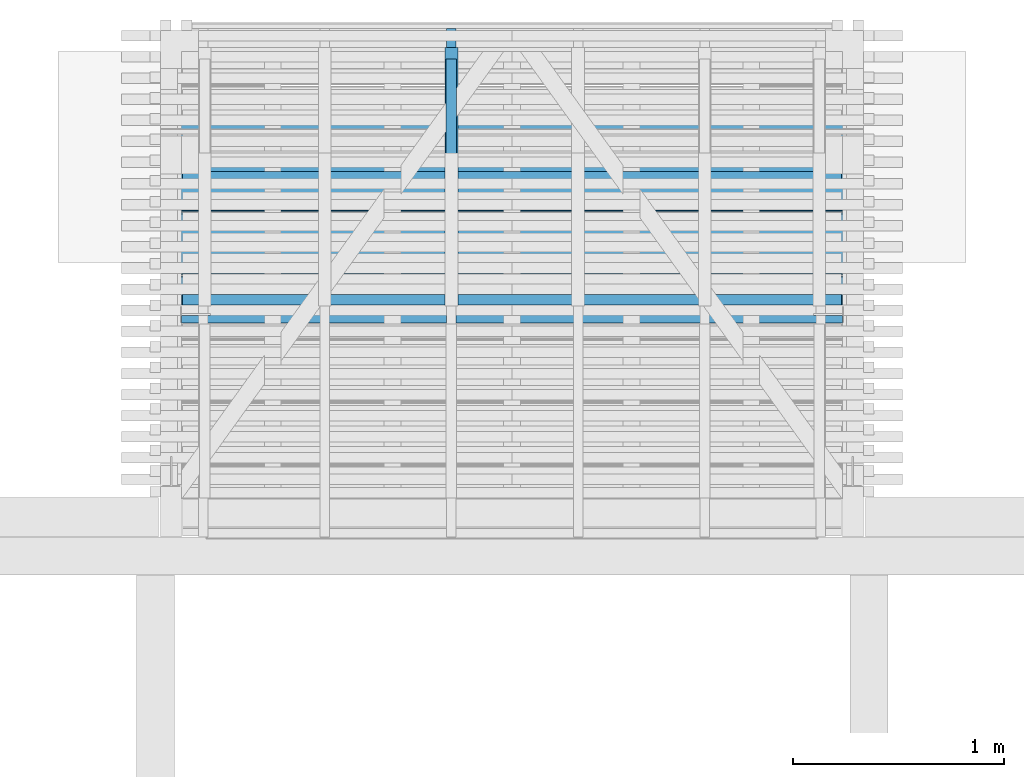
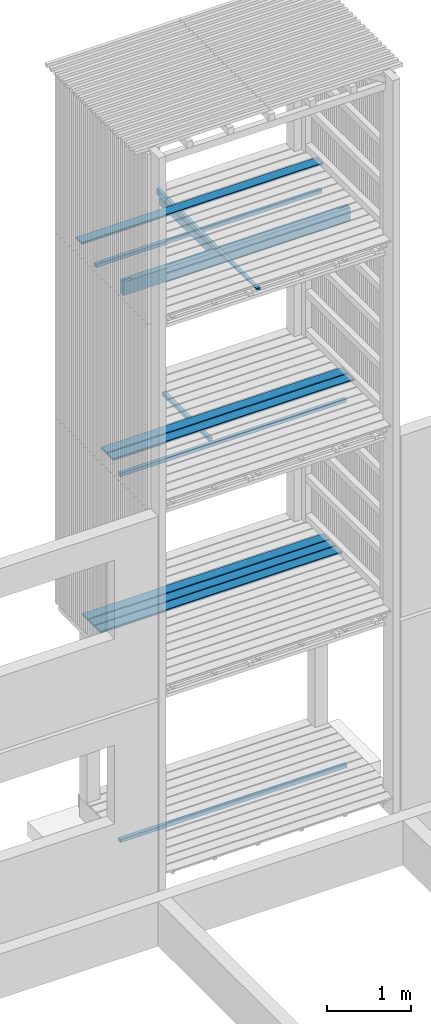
# One storey, part 46 of 182: 13 beams.
"""IFC2X3 building model written with IfcOpenShell, lengths in metres."""

from ifc_helpers import new_model, si_unit, frame, origin, place, context, project, spatial, faceted_brep, element, save


model = new_model("IFC2X3")

# Units and contexts
model_context = context("Model", 3, precision=1e-06, world=origin())
ifc_project = project(units=[si_unit("LENGTHUNIT", "METRE"), si_unit("PLANEANGLEUNIT", "RADIAN")], contexts=[model_context])

# Site, building, storey
site = spatial("IfcSite", under=ifc_project, CompositionType="ELEMENT")
building = spatial("IfcBuilding", under=site, CompositionType="ELEMENT")
storey = spatial("IfcBuildingStorey", under=building, Name="vs", CompositionType="ELEMENT", Elevation=-0.85)

# Beams
placement = place(None, origin())
beam_1_placement = place(placement, frame((16.654197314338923, 12.084577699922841, 2.733499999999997), z_axis=(0.0, 0.0, 1.0), x_axis=(-1.0, -1e-14, 0.0)))
element("IfcBeam", 1, at=beam_1_placement, inside=storey, Name="Caillebotis", context=model_context, shape_type="Brep", body=[
    faceted_brep([(3.329999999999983, -0.072500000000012, -0.013499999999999), (3.329999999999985, 0.072499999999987, -0.013499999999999), (3.329999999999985, 0.072499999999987, 0.0085), (3.329999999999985, 0.067499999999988, 0.013500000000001), (3.329999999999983, -0.067500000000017, 0.013500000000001), (3.329999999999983, -0.072500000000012, 0.008500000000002), (-1.5e-14, -0.072499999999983, 0.008500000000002), (-1.5e-14, -0.067499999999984, 0.013500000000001), (-1.4e-14, 0.067500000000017, 0.0135), (-1.4e-14, 0.072500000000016, 0.008500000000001), (-1.4e-14, 0.072500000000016, -0.013499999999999), (-1.5e-14, -0.072499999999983, -0.013499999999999), (3.329999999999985, 0.072499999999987, 0.0085), (3.329999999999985, 0.072499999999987, -0.013499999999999), (-1.4e-14, 0.072500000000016, -0.013499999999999), (-1.4e-14, 0.072500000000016, 0.008500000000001), (3.329999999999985, 0.067499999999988, 0.013500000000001), (3.329999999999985, 0.072499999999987, 0.0085), (-1.4e-14, 0.072500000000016, 0.008500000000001), (-1.4e-14, 0.067500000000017, 0.0135), (3.329999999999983, -0.067500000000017, 0.013500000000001), (3.329999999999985, 0.067499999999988, 0.013500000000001), (-1.4e-14, 0.067500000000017, 0.0135), (-1.5e-14, -0.067499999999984, 0.013500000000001), (3.329999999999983, -0.072500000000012, 0.008500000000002), (3.329999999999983, -0.067500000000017, 0.013500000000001), (-1.5e-14, -0.067499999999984, 0.013500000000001), (-1.5e-14, -0.072499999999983, 0.008500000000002), (3.329999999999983, -0.072500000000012, -0.013499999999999), (3.329999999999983, -0.072500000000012, 0.008500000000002), (-1.5e-14, -0.072499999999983, 0.008500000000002), (-1.5e-14, -0.072499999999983, -0.013499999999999), (-1.4e-14, 0.072500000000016, -0.013499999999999), (3.329999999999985, 0.072499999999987, -0.013499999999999), (3.329999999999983, -0.072500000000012, -0.013499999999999), (-1.5e-14, -0.072499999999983, -0.013499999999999)], [[[0, 1, 2, 3, 4, 5]], [[6, 7, 8, 9, 10, 11]], [[12, 13, 14, 15]], [[16, 17, 18, 19]], [[20, 21, 22, 23]], [[24, 25, 26, 27]], [[28, 29, 30, 31]], [[32, 33, 34, 35]]]),
])
beam_2_placement = place(placement, frame((16.654197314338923, 11.784577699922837, 5.433499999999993), z_axis=(0.0, 0.0, 1.0), x_axis=(-1.0, -8e-15, 0.0)))
element("IfcBeam", 2, at=beam_2_placement, inside=storey, Name="Caillebotis", context=model_context, shape_type="Brep", body=[
    faceted_brep([(3.329999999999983, -0.072500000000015, -0.0135), (3.329999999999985, 0.072499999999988, -0.0135), (3.329999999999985, 0.072499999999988, 0.0085), (3.329999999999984, 0.067499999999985, 0.0135), (3.329999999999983, -0.067500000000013, 0.0135), (3.329999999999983, -0.072500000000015, 0.008500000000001), (-1.5e-14, -0.072499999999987, 0.008500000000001), (-1.5e-14, -0.067499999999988, 0.0135), (-1.4e-14, 0.067500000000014, 0.0135), (-1.4e-14, 0.072500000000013, 0.0085), (-1.4e-14, 0.072500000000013, -0.0135), (-1.5e-14, -0.072499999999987, -0.0135), (3.329999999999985, 0.072499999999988, 0.0085), (3.329999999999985, 0.072499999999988, -0.0135), (-1.4e-14, 0.072500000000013, -0.0135), (-1.4e-14, 0.072500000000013, 0.0085), (3.329999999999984, 0.067499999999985, 0.0135), (3.329999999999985, 0.072499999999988, 0.0085), (-1.4e-14, 0.072500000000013, 0.0085), (-1.4e-14, 0.067500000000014, 0.0135), (3.329999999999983, -0.067500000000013, 0.0135), (3.329999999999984, 0.067499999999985, 0.0135), (-1.4e-14, 0.067500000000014, 0.0135), (-1.5e-14, -0.067499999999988, 0.0135), (3.329999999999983, -0.072500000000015, 0.008500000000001), (3.329999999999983, -0.067500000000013, 0.0135), (-1.5e-14, -0.067499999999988, 0.0135), (-1.5e-14, -0.072499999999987, 0.008500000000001), (3.329999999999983, -0.072500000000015, -0.0135), (3.329999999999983, -0.072500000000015, 0.008500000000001), (-1.5e-14, -0.072499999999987, 0.008500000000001), (-1.5e-14, -0.072499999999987, -0.0135), (-1.4e-14, 0.072500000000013, -0.0135), (3.329999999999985, 0.072499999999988, -0.0135), (3.329999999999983, -0.072500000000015, -0.0135), (-1.5e-14, -0.072499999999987, -0.0135)], [[[0, 1, 2, 3, 4, 5]], [[6, 7, 8, 9, 10, 11]], [[12, 13, 14, 15]], [[16, 17, 18, 19]], [[20, 21, 22, 23]], [[24, 25, 26, 27]], [[28, 29, 30, 31]], [[32, 33, 34, 35]]]),
])
beam_3_placement = place(placement, frame((16.654197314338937, 12.23457769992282, 2.733499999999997), z_axis=(0.0, 0.0, 1.0), x_axis=(-1.0, 0.0, 0.0)))
element("IfcBeam", 3, at=beam_3_placement, inside=storey, Name="Caillebotis", context=model_context, shape_type="Brep", body=[
    faceted_brep([(3.329999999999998, -0.072499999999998, -0.0135), (3.329999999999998, 0.072499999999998, -0.0135), (3.329999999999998, 0.072499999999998, 0.0085), (3.329999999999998, 0.067500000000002, 0.0135), (3.329999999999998, -0.067500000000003, 0.0135), (3.329999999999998, -0.072499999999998, 0.008500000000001), (0.0, -0.072500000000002, 0.008500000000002), (0.0, -0.067500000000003, 0.0135), (0.0, 0.067499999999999, 0.0135), (0.0, 0.072499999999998, 0.0085), (0.0, 0.072499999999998, -0.0135), (0.0, -0.072500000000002, -0.0135), (3.329999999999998, 0.072499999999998, 0.0085), (3.329999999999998, 0.072499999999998, -0.0135), (0.0, 0.072499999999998, -0.0135), (0.0, 0.072499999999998, 0.0085), (3.329999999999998, 0.067500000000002, 0.0135), (3.329999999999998, 0.072499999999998, 0.0085), (0.0, 0.072499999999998, 0.0085), (0.0, 0.067499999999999, 0.0135), (3.329999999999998, -0.067500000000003, 0.0135), (3.329999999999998, 0.067500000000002, 0.0135), (0.0, 0.067499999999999, 0.0135), (0.0, -0.067500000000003, 0.0135), (3.329999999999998, -0.072499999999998, 0.008500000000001), (3.329999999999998, -0.067500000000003, 0.0135), (0.0, -0.067500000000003, 0.0135), (0.0, -0.072500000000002, 0.008500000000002), (3.329999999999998, -0.072499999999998, -0.0135), (3.329999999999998, -0.072499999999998, 0.008500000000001), (0.0, -0.072500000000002, 0.008500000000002), (0.0, -0.072500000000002, -0.0135), (0.0, 0.072499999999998, -0.0135), (3.329999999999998, 0.072499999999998, -0.0135), (3.329999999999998, -0.072499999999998, -0.0135), (0.0, -0.072500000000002, -0.0135)], [[[0, 1, 2, 3, 4, 5]], [[6, 7, 8, 9, 10, 11]], [[12, 13, 14, 15]], [[16, 17, 18, 19]], [[20, 21, 22, 23]], [[24, 25, 26, 27]], [[28, 29, 30, 31]], [[32, 33, 34, 35]]]),
])
beam_4_placement = place(placement, frame((16.549197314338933, 11.595077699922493, 5.167399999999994), z_axis=(0.0, 0.0, 1.0), x_axis=(-1.0, 0.0, 0.0)))
element("IfcBeam", 4, at=beam_4_placement, inside=storey, Name="Bardage", context=model_context, shape_type="Brep", body=[
    faceted_brep([(-3e-15, 0.024999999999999, -0.025), (-3e-15, -0.025000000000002, -0.025), (-3e-15, -0.025000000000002, 0.025), (-3e-15, 0.024999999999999, 0.025), (3.120000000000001, -0.025000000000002, 0.025), (3.120000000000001, -0.025000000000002, -0.025), (3.120000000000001, 0.025000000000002, -0.025), (3.120000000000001, 0.025000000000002, 0.025), (3.120000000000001, -0.025000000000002, -0.025), (3.120000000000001, -0.025000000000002, 0.025), (-3e-15, -0.025000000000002, 0.025), (-3e-15, -0.025000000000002, -0.025), (3.120000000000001, 0.025000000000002, -0.025), (3.120000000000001, -0.025000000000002, -0.025), (-3e-15, -0.025000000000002, -0.025), (-3e-15, 0.024999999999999, -0.025), (3.120000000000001, 0.025000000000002, 0.025), (3.120000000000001, 0.025000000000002, -0.025), (-3e-15, 0.024999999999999, -0.025), (-3e-15, 0.024999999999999, 0.025), (3.120000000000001, -0.025000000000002, 0.025), (3.120000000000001, 0.025000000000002, 0.025), (-3e-15, 0.024999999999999, 0.025), (-3e-15, -0.025000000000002, 0.025)], [[[0, 1, 2, 3]], [[4, 5, 6, 7]], [[8, 9, 10, 11]], [[12, 13, 14, 15]], [[16, 17, 18, 19]], [[20, 21, 22, 23]]]),
])
beam_5_placement = place(placement, frame((16.55419731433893, 11.525077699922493, 7.93999999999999), z_axis=(0.0, 0.0, 1.0), x_axis=(-1.0, 0.0, 0.0)))
element("IfcBeam", 5, at=beam_5_placement, inside=storey, Name="Sommier", context=model_context, shape_type="Brep", body=[
    faceted_brep([(0.137000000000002, -0.004000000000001, -0.100000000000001), (1e-15, -0.004000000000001, -0.100000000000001), (1e-15, -0.004000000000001, 0.1), (0.137000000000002, -0.004000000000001, 0.1), (0.137000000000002, 0.003999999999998, -0.100000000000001), (0.137000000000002, -0.004000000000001, -0.100000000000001), (0.137000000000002, -0.004000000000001, 0.1), (0.137000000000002, 0.003999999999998, 0.1), (1e-15, 0.003999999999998, -0.100000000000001), (0.137000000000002, 0.003999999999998, -0.100000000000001), (0.137000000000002, 0.003999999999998, 0.1), (1e-15, 0.003999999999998, 0.1), (1e-15, -0.004000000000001, 0.1), (1e-15, -0.004000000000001, -0.100000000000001), (1e-15, -0.040000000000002, -0.100000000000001), (1e-15, -0.040000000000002, 0.1), (1e-15, 0.04, 0.1), (1e-15, 0.04, -0.100000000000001), (1e-15, 0.003999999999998, -0.100000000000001), (1e-15, 0.003999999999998, 0.1), (2.992999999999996, 0.004000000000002, 0.1), (2.992999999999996, 0.004000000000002, -0.100000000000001), (3.129999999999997, 0.004000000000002, -0.100000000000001), (3.129999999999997, 0.004000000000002, 0.1), (2.992999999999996, -0.004000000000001, 0.1), (2.992999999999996, -0.004000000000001, -0.100000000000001), (2.992999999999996, 0.004000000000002, -0.100000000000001), (2.992999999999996, 0.004000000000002, 0.1), (3.129999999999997, -0.004000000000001, 0.1), (3.129999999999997, -0.004000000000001, -0.100000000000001), (2.992999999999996, -0.004000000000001, -0.100000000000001), (2.992999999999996, -0.004000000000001, 0.1), (3.129999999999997, 0.004000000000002, 0.1), (3.129999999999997, 0.004000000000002, -0.100000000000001), (3.129999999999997, 0.040000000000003, -0.100000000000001), (3.129999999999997, 0.040000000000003, 0.1), (3.129999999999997, -0.040000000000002, 0.1), (3.129999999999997, -0.040000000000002, -0.100000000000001), (3.129999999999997, -0.004000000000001, -0.100000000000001), (3.129999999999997, -0.004000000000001, 0.1), (2.992999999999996, 0.004000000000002, 0.1), (3.129999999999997, 0.004000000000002, 0.1), (3.129999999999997, 0.040000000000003, 0.1), (1e-15, 0.04, 0.1), (1e-15, 0.003999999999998, 0.1), (0.137000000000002, 0.003999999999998, 0.1), (0.137000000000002, -0.004000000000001, 0.1), (1e-15, -0.004000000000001, 0.1), (1e-15, -0.040000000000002, 0.1), (3.129999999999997, -0.040000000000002, 0.1), (3.129999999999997, -0.004000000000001, 0.1), (2.992999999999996, -0.004000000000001, 0.1), (1e-15, -0.040000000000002, -0.100000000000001), (1e-15, -0.004000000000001, -0.100000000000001), (0.137000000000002, -0.004000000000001, -0.100000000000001), (0.137000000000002, 0.003999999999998, -0.100000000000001), (1e-15, 0.003999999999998, -0.100000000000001), (1e-15, 0.04, -0.100000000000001), (3.129999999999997, 0.040000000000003, -0.100000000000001), (3.129999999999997, 0.004000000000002, -0.100000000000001), (2.992999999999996, 0.004000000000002, -0.100000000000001), (2.992999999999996, -0.004000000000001, -0.100000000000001), (3.129999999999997, -0.004000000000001, -0.100000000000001), (3.129999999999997, -0.040000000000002, -0.100000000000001), (1e-15, -0.040000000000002, -0.100000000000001), (3.129999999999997, -0.040000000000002, -0.100000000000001), (3.129999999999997, -0.040000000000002, 0.1), (1e-15, -0.040000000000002, 0.1), (1e-15, 0.04, 0.1), (3.129999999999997, 0.040000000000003, 0.1), (3.129999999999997, 0.040000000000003, -0.100000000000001), (1e-15, 0.04, -0.100000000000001)], [[[0, 1, 2, 3]], [[4, 5, 6, 7]], [[8, 9, 10, 11]], [[12, 13, 14, 15]], [[16, 17, 18, 19]], [[20, 21, 22, 23]], [[24, 25, 26, 27]], [[28, 29, 30, 31]], [[32, 33, 34, 35]], [[36, 37, 38, 39]], [[40, 41, 42, 43, 44, 45, 46, 47, 48, 49, 50, 51]], [[52, 53, 54, 55, 56, 57, 58, 59, 60, 61, 62, 63]], [[64, 65, 66, 67]], [[68, 69, 70, 71]]]),
])
beam_6_placement = place(placement, frame((14.70219731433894, 11.565077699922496, 8.00424999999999), z_axis=(0.0, 0.0, 1.0), x_axis=(0.0, 1.0, 0.0)))
element("IfcBeam", 6, at=beam_6_placement, inside=storey, Name="Solive", context=model_context, shape_type="Brep", body=[
    faceted_brep([(0.0, -0.029999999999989, -0.061849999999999), (1.225000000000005, -0.029999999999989, -0.061849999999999), (1.225000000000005, -0.029999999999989, 0.037349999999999), (0.0, -0.029999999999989, 0.061849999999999), (0.0, 0.029999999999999, -0.061849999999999), (1.225000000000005, 0.029999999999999, -0.061849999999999), (1.225000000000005, -0.029999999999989, -0.061849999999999), (0.0, -0.029999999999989, -0.061849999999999), (0.0, 0.029999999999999, 0.061850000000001), (0.0, 0.029999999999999, -0.061849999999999), (0.0, -0.029999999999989, -0.061849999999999), (0.0, -0.029999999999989, 0.061849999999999), (1.225000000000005, 0.029999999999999, -0.061849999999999), (0.0, 0.029999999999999, -0.061849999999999), (0.0, 0.029999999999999, 0.061850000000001), (1.225000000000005, 0.029999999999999, 0.037349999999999), (1.225000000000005, -0.029999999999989, 0.037349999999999), (1.225000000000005, -0.029999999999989, -0.061849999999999), (1.225000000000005, 0.029999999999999, -0.061849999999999), (1.225000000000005, 0.029999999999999, 0.037349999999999), (0.0, -0.029999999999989, 0.061849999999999), (1.225000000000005, -0.029999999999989, 0.037349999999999), (1.225000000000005, 0.029999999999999, 0.037349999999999), (0.0, 0.029999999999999, 0.061850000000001)], [[[0, 1, 2, 3]], [[4, 5, 6, 7]], [[8, 9, 10, 11]], [[12, 13, 14, 15]], [[16, 17, 18, 19]], [[20, 21, 22, 23]]]),
])
beam_7_placement = place(placement, frame((16.654197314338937, 12.384577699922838, 8.13349999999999), z_axis=(0.0, 0.0, 1.0), x_axis=(-1.0, -1e-14, 0.0)))
element("IfcBeam", 7, at=beam_7_placement, inside=storey, Name="Caillebotis", context=model_context, shape_type="Brep", body=[
    faceted_brep([(3.329999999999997, -0.072500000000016, -0.013500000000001), (3.329999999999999, 0.072499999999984, -0.013500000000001), (3.329999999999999, 0.072499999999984, 0.008499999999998), (3.329999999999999, 0.067499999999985, 0.013499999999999), (3.329999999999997, -0.067500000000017, 0.013499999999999), (3.329999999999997, -0.072500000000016, 0.0085), (-1e-15, -0.072499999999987, 0.0085), (-1e-15, -0.067499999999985, 0.013499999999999), (1e-15, 0.067500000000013, 0.013499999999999), (1e-15, 0.072500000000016, 0.008499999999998), (1e-15, 0.072500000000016, -0.013500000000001), (-1e-15, -0.072499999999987, -0.013500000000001), (3.329999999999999, 0.072499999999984, 0.008499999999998), (3.329999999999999, 0.072499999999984, -0.013500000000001), (1e-15, 0.072500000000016, -0.013500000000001), (1e-15, 0.072500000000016, 0.008499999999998), (3.329999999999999, 0.067499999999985, 0.013499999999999), (3.329999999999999, 0.072499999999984, 0.008499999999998), (1e-15, 0.072500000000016, 0.008499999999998), (1e-15, 0.067500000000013, 0.013499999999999), (3.329999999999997, -0.067500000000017, 0.013499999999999), (3.329999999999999, 0.067499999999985, 0.013499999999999), (1e-15, 0.067500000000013, 0.013499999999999), (-1e-15, -0.067499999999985, 0.013499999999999), (3.329999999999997, -0.072500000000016, 0.0085), (3.329999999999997, -0.067500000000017, 0.013499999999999), (-1e-15, -0.067499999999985, 0.013499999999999), (-1e-15, -0.072499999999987, 0.0085), (3.329999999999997, -0.072500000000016, -0.013500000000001), (3.329999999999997, -0.072500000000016, 0.0085), (-1e-15, -0.072499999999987, 0.0085), (-1e-15, -0.072499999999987, -0.013500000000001), (1e-15, 0.072500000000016, -0.013500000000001), (3.329999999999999, 0.072499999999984, -0.013500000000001), (3.329999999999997, -0.072500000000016, -0.013500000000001), (-1e-15, -0.072499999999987, -0.013500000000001)], [[[0, 1, 2, 3, 4, 5]], [[6, 7, 8, 9, 10, 11]], [[12, 13, 14, 15]], [[16, 17, 18, 19]], [[20, 21, 22, 23]], [[24, 25, 26, 27]], [[28, 29, 30, 31]], [[32, 33, 34, 35]]]),
])
beam_8_placement = place(placement, frame((14.70219731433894, 10.4700776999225, 8.084400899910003), z_axis=(0.0, 0.0, 1.0), x_axis=(0.0, 1.0, 0.0)))
element("IfcBeam", 8, at=beam_8_placement, inside=storey, Name="Calage", context=model_context, shape_type="Brep", body=[
    faceted_brep([(2.410000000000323, -0.022499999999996, -0.035599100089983), (0.0, -0.022499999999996, 0.012600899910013), (0.0, 0.022500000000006, 0.012600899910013), (2.410000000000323, 0.022500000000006, -0.035599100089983), (0.0, 0.022500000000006, 0.035599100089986), (0.0, 0.022500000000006, 0.012600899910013), (0.0, -0.022499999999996, 0.012600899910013), (0.0, -0.022499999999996, 0.035599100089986), (2.410000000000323, 0.022500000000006, -0.035599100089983), (0.0, 0.022500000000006, 0.012600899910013), (0.0, 0.022500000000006, 0.035599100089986), (2.410000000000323, 0.022500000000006, 0.035599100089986), (2.410000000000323, -0.022499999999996, 0.035599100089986), (0.0, -0.022499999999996, 0.035599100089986), (0.0, -0.022499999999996, 0.012600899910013), (2.410000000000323, -0.022499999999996, -0.035599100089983), (2.410000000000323, 0.022500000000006, 0.035599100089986), (0.0, 0.022500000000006, 0.035599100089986), (0.0, -0.022499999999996, 0.035599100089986), (2.410000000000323, -0.022499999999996, 0.035599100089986), (2.410000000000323, 0.022500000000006, -0.035599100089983), (2.410000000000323, 0.022500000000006, 0.035599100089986), (2.410000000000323, -0.022499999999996, 0.035599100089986), (2.410000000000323, -0.022499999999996, -0.035599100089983)], [[[0, 1, 2, 3]], [[4, 5, 6, 7]], [[8, 9, 10, 11]], [[12, 13, 14, 15]], [[16, 17, 18, 19]], [[20, 21, 22, 23]]]),
])
beam_9_placement = place(placement, frame((13.424197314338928, 11.590077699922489, -0.164999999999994), z_axis=(0.0, 0.0, 1.0), x_axis=(1.0, 0.0, 0.0)))
element("IfcBeam", 9, at=beam_9_placement, inside=storey, Name="Ligneul", context=model_context, shape_type="Brep", body=[
    faceted_brep([(4e-15, -0.024999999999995, 0.025), (4e-15, -0.024999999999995, -0.025), (3.129999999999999, -0.024999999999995, -0.025), (3.129999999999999, -0.024999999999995, 0.025), (4e-15, 0.025000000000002, 0.025), (4e-15, -0.024999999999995, 0.025), (3.129999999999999, -0.024999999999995, 0.025), (3.129999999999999, 0.025000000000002, 0.025), (4e-15, -0.024999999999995, 0.025), (4e-15, 0.025000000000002, 0.025), (4e-15, 0.025000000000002, -0.025), (4e-15, -0.024999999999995, -0.025), (4e-15, 0.025000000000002, -0.025), (4e-15, 0.025000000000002, 0.025), (3.129999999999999, 0.025000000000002, 0.025), (3.129999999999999, 0.025000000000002, -0.025), (3.129999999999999, -0.024999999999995, -0.025), (4e-15, -0.024999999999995, -0.025), (4e-15, 0.025000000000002, -0.025), (3.129999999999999, 0.025000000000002, -0.025), (3.129999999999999, -0.024999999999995, 0.025), (3.129999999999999, -0.024999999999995, -0.025), (3.129999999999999, 0.025000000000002, -0.025), (3.129999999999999, 0.025000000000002, 0.025)], [[[0, 1, 2, 3]], [[4, 5, 6, 7]], [[8, 9, 10, 11]], [[12, 13, 14, 15]], [[16, 17, 18, 19]], [[20, 21, 22, 23]]]),
])
beam_10_placement = place(placement, frame((16.654197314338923, 11.634577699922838, 5.433499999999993), z_axis=(0.0, 0.0, 1.0), x_axis=(-1.0, -1e-14, 0.0)))
element("IfcBeam", 10, at=beam_10_placement, inside=storey, Name="Caillebotis", context=model_context, shape_type="Brep", body=[
    faceted_brep([(3.329999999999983, -0.072500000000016, -0.0135), (3.329999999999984, 0.072499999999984, -0.0135), (3.329999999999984, 0.072499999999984, 0.0085), (3.329999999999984, 0.067499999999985, 0.0135), (3.329999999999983, -0.067500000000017, 0.0135), (3.329999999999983, -0.072500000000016, 0.008500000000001), (-1.5e-14, -0.072499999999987, 0.008500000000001), (-1.5e-14, -0.067499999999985, 0.0135), (-1.4e-14, 0.067500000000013, 0.0135), (-1.4e-14, 0.072500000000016, 0.0085), (-1.4e-14, 0.072500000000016, -0.0135), (-1.5e-14, -0.072499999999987, -0.0135), (3.329999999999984, 0.072499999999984, 0.0085), (3.329999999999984, 0.072499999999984, -0.0135), (-1.4e-14, 0.072500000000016, -0.0135), (-1.4e-14, 0.072500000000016, 0.0085), (3.329999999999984, 0.067499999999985, 0.0135), (3.329999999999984, 0.072499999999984, 0.0085), (-1.4e-14, 0.072500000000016, 0.0085), (-1.4e-14, 0.067500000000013, 0.0135), (3.329999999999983, -0.067500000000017, 0.0135), (3.329999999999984, 0.067499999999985, 0.0135), (-1.4e-14, 0.067500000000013, 0.0135), (-1.5e-14, -0.067499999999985, 0.0135), (3.329999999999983, -0.072500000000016, 0.008500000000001), (3.329999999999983, -0.067500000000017, 0.0135), (-1.5e-14, -0.067499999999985, 0.0135), (-1.5e-14, -0.072499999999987, 0.008500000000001), (3.329999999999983, -0.072500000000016, -0.0135), (3.329999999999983, -0.072500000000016, 0.008500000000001), (-1.5e-14, -0.072499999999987, 0.008500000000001), (-1.5e-14, -0.072499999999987, -0.0135), (-1.4e-14, 0.072500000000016, -0.0135), (3.329999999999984, 0.072499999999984, -0.0135), (3.329999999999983, -0.072500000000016, -0.0135), (-1.5e-14, -0.072499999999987, -0.0135)], [[[0, 1, 2, 3, 4, 5]], [[6, 7, 8, 9, 10, 11]], [[12, 13, 14, 15]], [[16, 17, 18, 19]], [[20, 21, 22, 23]], [[24, 25, 26, 27]], [[28, 29, 30, 31]], [[32, 33, 34, 35]]]),
])
beam_11_placement = place(placement, frame((16.654197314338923, 11.934577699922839, 2.733499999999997), z_axis=(0.0, 0.0, 1.0), x_axis=(-1.0, -8e-15, 0.0)))
element("IfcBeam", 11, at=beam_11_placement, inside=storey, Name="Caillebotis", context=model_context, shape_type="Brep", body=[
    faceted_brep([(3.329999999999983, -0.072500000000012, -0.0135), (3.329999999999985, 0.072499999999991, -0.0135), (3.329999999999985, 0.072499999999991, 0.0085), (3.329999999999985, 0.067499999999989, 0.0135), (3.329999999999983, -0.067500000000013, 0.0135), (3.329999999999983, -0.072500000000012, 0.008500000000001), (-1.5e-14, -0.072499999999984, 0.008500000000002), (-1.5e-14, -0.067499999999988, 0.0135), (-1.4e-14, 0.067500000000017, 0.0135), (-1.4e-14, 0.072500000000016, 0.0085), (-1.4e-14, 0.072500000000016, -0.0135), (-1.5e-14, -0.072499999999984, -0.0135), (3.329999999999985, 0.072499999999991, 0.0085), (3.329999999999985, 0.072499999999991, -0.0135), (-1.4e-14, 0.072500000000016, -0.0135), (-1.4e-14, 0.072500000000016, 0.0085), (3.329999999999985, 0.067499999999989, 0.0135), (3.329999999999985, 0.072499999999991, 0.0085), (-1.4e-14, 0.072500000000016, 0.0085), (-1.4e-14, 0.067500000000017, 0.0135), (3.329999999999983, -0.067500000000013, 0.0135), (3.329999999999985, 0.067499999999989, 0.0135), (-1.4e-14, 0.067500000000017, 0.0135), (-1.5e-14, -0.067499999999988, 0.0135), (3.329999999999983, -0.072500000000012, 0.008500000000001), (3.329999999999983, -0.067500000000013, 0.0135), (-1.5e-14, -0.067499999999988, 0.0135), (-1.5e-14, -0.072499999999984, 0.008500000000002), (3.329999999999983, -0.072500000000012, -0.0135), (3.329999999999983, -0.072500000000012, 0.008500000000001), (-1.5e-14, -0.072499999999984, 0.008500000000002), (-1.5e-14, -0.072499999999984, -0.0135), (-1.4e-14, 0.072500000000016, -0.0135), (3.329999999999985, 0.072499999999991, -0.0135), (3.329999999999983, -0.072500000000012, -0.0135), (-1.5e-14, -0.072499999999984, -0.0135)], [[[0, 1, 2, 3, 4, 5]], [[6, 7, 8, 9, 10, 11]], [[12, 13, 14, 15]], [[16, 17, 18, 19]], [[20, 21, 22, 23]], [[24, 25, 26, 27]], [[28, 29, 30, 31]], [[32, 33, 34, 35]]]),
])
beam_12_placement = place(placement, frame((16.549197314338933, 12.1775776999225, 7.86739999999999), z_axis=(0.0, 0.0, 1.0), x_axis=(-1.0, -1e-15, 0.0)))
element("IfcBeam", 12, at=beam_12_placement, inside=storey, Name="Bardage", context=model_context, shape_type="Brep", body=[
    faceted_brep([(3.119999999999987, -0.025000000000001, 0.025000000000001), (3.119999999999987, -0.025000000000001, -0.024999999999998), (3.120000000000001, 0.024999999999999, -0.024999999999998), (3.120000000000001, 0.024999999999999, 0.025000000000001), (-3e-15, -0.024999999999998, 0.025000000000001), (-3e-15, 0.025000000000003, 0.025000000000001), (-3e-15, 0.025000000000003, -0.024999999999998), (-3e-15, -0.024999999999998, -0.024999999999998), (-3e-15, 0.025000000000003, 0.025000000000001), (-3e-15, -0.024999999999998, 0.025000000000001), (3.119999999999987, -0.025000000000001, 0.025000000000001), (3.120000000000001, 0.024999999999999, 0.025000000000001), (3.120000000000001, 0.024999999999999, 0.025000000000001), (3.120000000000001, 0.024999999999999, -0.024999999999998), (-3e-15, 0.025000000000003, -0.024999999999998), (-3e-15, 0.025000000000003, 0.025000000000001), (3.119999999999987, -0.025000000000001, -0.024999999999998), (3.119999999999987, -0.025000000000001, 0.025000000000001), (-3e-15, -0.024999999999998, 0.025000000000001), (-3e-15, -0.024999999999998, -0.024999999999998), (3.120000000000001, 0.024999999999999, -0.024999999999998), (3.119999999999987, -0.025000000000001, -0.024999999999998), (-3e-15, -0.024999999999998, -0.024999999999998), (-3e-15, 0.025000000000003, -0.024999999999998)], [[[0, 1, 2, 3]], [[4, 5, 6, 7]], [[8, 9, 10, 11]], [[12, 13, 14, 15]], [[16, 17, 18, 19]], [[20, 21, 22, 23]]]),
])
beam_13_placement = place(placement, frame((14.70219731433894, 12.735077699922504, 5.217399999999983), z_axis=(0.0, 0.0, 1.0), x_axis=(0.0, -1.0, 0.0)))
element("IfcBeam", 13, at=beam_13_placement, inside=storey, Name="Calage", context=model_context, shape_type="Brep", body=[
    faceted_brep([(1.115000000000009, 0.024999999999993, 0.024999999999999), (1.115000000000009, -0.025000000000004, 0.024999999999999), (1.115000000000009, -0.025000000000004, -0.025), (1.115000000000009, 0.024999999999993, -0.025), (0.0, -0.025000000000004, -0.025), (0.0, -0.025000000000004, 0.024999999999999), (0.0, 0.024999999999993, 0.024999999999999), (0.0, 0.024999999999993, -0.025), (1.115000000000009, -0.025000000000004, 0.024999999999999), (1.115000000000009, 0.024999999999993, 0.024999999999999), (0.0, 0.024999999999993, 0.024999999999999), (0.0, -0.025000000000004, 0.024999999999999), (1.115000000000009, -0.025000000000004, -0.025), (1.115000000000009, -0.025000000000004, 0.024999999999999), (0.0, -0.025000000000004, 0.024999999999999), (0.0, -0.025000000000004, -0.025), (1.115000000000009, 0.024999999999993, -0.025), (1.115000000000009, -0.025000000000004, -0.025), (0.0, -0.025000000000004, -0.025), (0.0, 0.024999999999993, -0.025), (0.0, 0.024999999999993, 0.024999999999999), (1.115000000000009, 0.024999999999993, 0.024999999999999), (1.115000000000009, 0.024999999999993, -0.025), (0.0, 0.024999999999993, -0.025)], [[[0, 1, 2, 3]], [[4, 5, 6, 7]], [[8, 9, 10, 11]], [[12, 13, 14, 15]], [[16, 17, 18, 19]], [[20, 21, 22, 23]]]),
])

save(model, "model.ifc")
